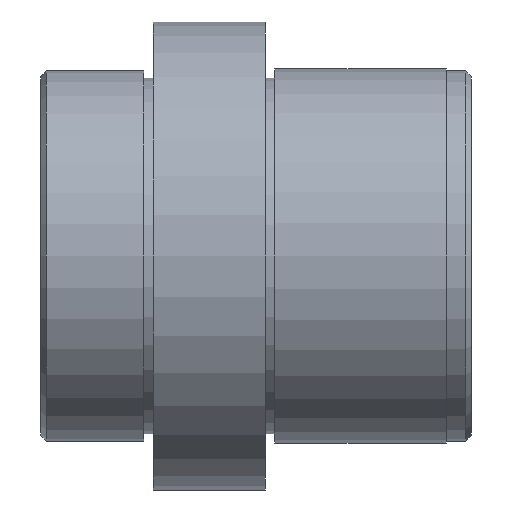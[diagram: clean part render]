
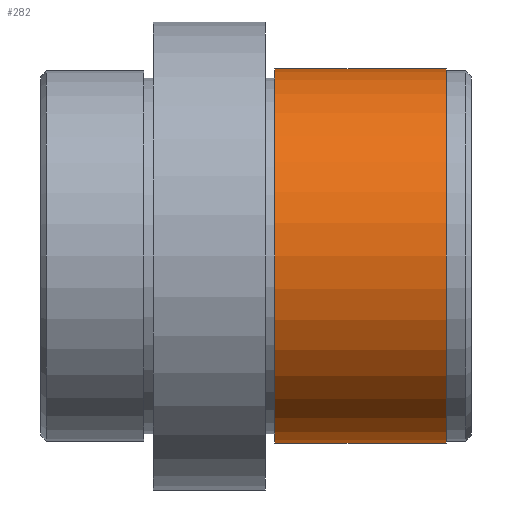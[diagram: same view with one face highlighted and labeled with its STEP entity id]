
A CAD part, front view. The second image highlights one B-rep face of the part: STEP entity #282.
In plain terms, the highlighted cylindrical face has radius 10 mm (diameter 20 mm), a full revolution.
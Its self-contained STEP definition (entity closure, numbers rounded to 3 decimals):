
#20=CYLINDRICAL_SURFACE('',#341,10.);
#51=FACE_OUTER_BOUND('',#75,.T.);
#75=EDGE_LOOP('',(#237,#238,#239,#240));
#88=LINE('',#509,#99);
#99=VECTOR('',#434,10.);
#120=CIRCLE('',#340,10.);
#121=CIRCLE('',#342,10.);
#142=VERTEX_POINT('',#504);
#143=VERTEX_POINT('',#507);
#174=EDGE_CURVE('',#142,#142,#120,.T.);
#175=EDGE_CURVE('',#143,#143,#121,.T.);
#176=EDGE_CURVE('',#143,#142,#88,.T.);
#237=ORIENTED_EDGE('',*,*,#175,.F.);
#238=ORIENTED_EDGE('',*,*,#176,.T.);
#239=ORIENTED_EDGE('',*,*,#174,.T.);
#240=ORIENTED_EDGE('',*,*,#176,.F.);
#282=ADVANCED_FACE('',(#51),#20,.T.);
#340=AXIS2_PLACEMENT_3D('',#505,#428,#429);
#341=AXIS2_PLACEMENT_3D('',#506,#430,#431);
#342=AXIS2_PLACEMENT_3D('',#508,#432,#433);
#428=DIRECTION('center_axis',(1.,0.,0.));
#429=DIRECTION('ref_axis',(0.,0.,-1.));
#430=DIRECTION('center_axis',(1.,0.,0.));
#431=DIRECTION('ref_axis',(0.,1.,0.));
#432=DIRECTION('center_axis',(1.,0.,0.));
#433=DIRECTION('ref_axis',(0.,0.,-1.));
#434=DIRECTION('',(-1.,0.,0.));
#504=CARTESIAN_POINT('',(12.5,-10.,0.));
#505=CARTESIAN_POINT('Origin',(12.5,0.,0.));
#506=CARTESIAN_POINT('Origin',(17.085,0.,0.));
#507=CARTESIAN_POINT('',(21.67,-10.,0.));
#508=CARTESIAN_POINT('Origin',(21.67,0.,0.));
#509=CARTESIAN_POINT('',(17.085,-10.,0.));
